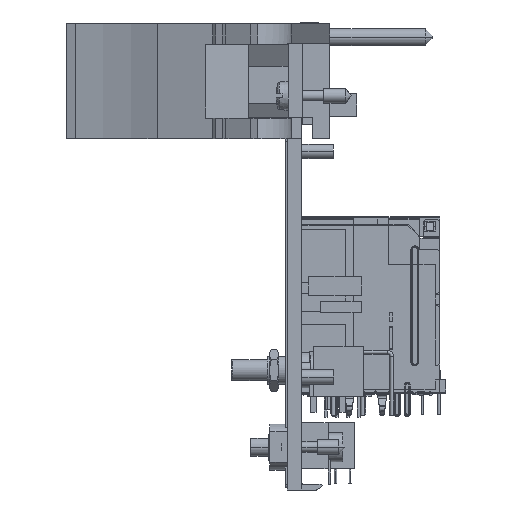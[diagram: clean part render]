
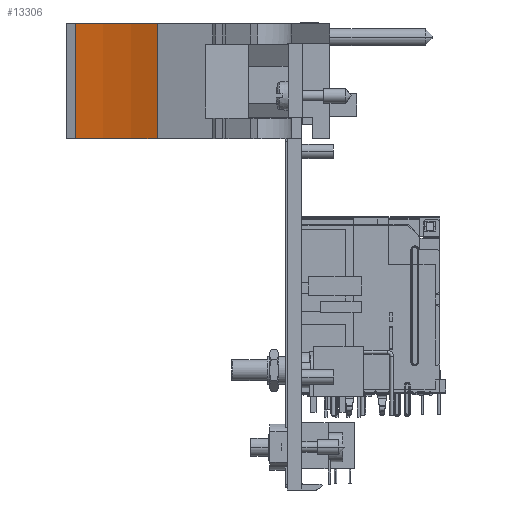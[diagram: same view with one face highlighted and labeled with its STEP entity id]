
A CAD part, front view. The second image highlights one B-rep face of the part: STEP entity #13306.
In plain terms, the highlighted cylindrical face has radius 51.46 mm (diameter 102.919 mm), a partial arc.
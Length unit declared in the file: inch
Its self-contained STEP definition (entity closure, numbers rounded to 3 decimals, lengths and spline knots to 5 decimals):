
#708=CARTESIAN_POINT('',(-1.97633,-5.94993,-0.055));
#709=DIRECTION('',(0.,0.,1.));
#710=DIRECTION('',(0.435,0.9,0.));
#711=AXIS2_PLACEMENT_3D('',#708,#709,#710);
#2202=DIRECTION('',(0.,0.,1.));
#2203=VECTOR('',#2202,0.788);
#2204=CARTESIAN_POINT('',(-1.09503,-4.12569,-0.055));
#2205=LINE('',#2204,#2203);
#2218=DIRECTION('',(0.,0.,1.));
#2219=VECTOR('',#2218,0.788);
#2220=CARTESIAN_POINT('',(-1.653,-3.94993,-0.055));
#2221=LINE('',#2220,#2219);
#2456=CARTESIAN_POINT('',(-1.97633,-5.94993,0.733));
#2457=DIRECTION('',(0.,0.,1.));
#2458=DIRECTION('',(0.435,0.9,0.));
#2459=AXIS2_PLACEMENT_3D('',#2456,#2457,#2458);
#9222=CARTESIAN_POINT('',(-1.09503,-4.12569,-0.055));
#9223=CARTESIAN_POINT('',(-1.653,-3.94993,-0.055));
#9224=VERTEX_POINT('',#9222);
#9225=VERTEX_POINT('',#9223);
#9226=CARTESIAN_POINT('',(-1.09503,-4.12569,0.733));
#9227=CARTESIAN_POINT('',(-1.653,-3.94993,0.733));
#9228=VERTEX_POINT('',#9226);
#9229=VERTEX_POINT('',#9227);
#13293=CARTESIAN_POINT('',(-1.97633,-5.94993,0.733));
#13294=DIRECTION('',(0.,0.,1.));
#13295=DIRECTION('',(0.,1.,0.));
#13296=AXIS2_PLACEMENT_3D('',#13293,#13294,#13295);
#13297=CYLINDRICAL_SURFACE('',#13296,2.02597);
#13298=ORIENTED_EDGE('',*,*,#11811,.T.);
#13300=ORIENTED_EDGE('',*,*,#13299,.T.);
#13302=ORIENTED_EDGE('',*,*,#13301,.F.);
#13303=ORIENTED_EDGE('',*,*,#13277,.F.);
#13304=EDGE_LOOP('',(#13298,#13300,#13302,#13303));
#13305=FACE_OUTER_BOUND('',#13304,.F.);
#13306=ADVANCED_FACE('',(#13305),#13297,.F.);
#712=CIRCLE('',#711,2.02597);
#2460=CIRCLE('',#2459,2.02597);
#11811=EDGE_CURVE('',#9224,#9225,#712,.T.);
#13277=EDGE_CURVE('',#9224,#9228,#2205,.T.);
#13299=EDGE_CURVE('',#9225,#9229,#2221,.T.);
#13301=EDGE_CURVE('',#9228,#9229,#2460,.T.);
